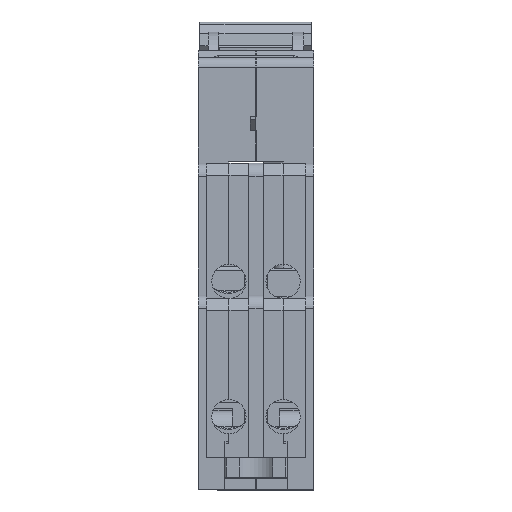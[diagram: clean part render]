
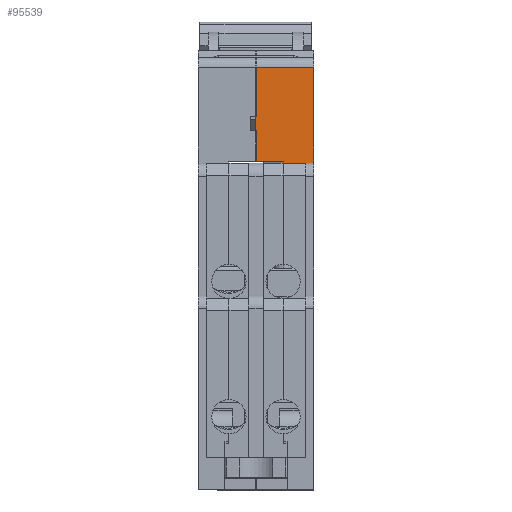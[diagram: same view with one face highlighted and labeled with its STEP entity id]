
A CAD part, front view. The second image highlights one B-rep face of the part: STEP entity #95539.
In plain terms, the highlighted planar face has unit normal (0, -1, 0).
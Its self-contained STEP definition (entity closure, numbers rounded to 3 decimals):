
#5429 = VERTEX_POINT ( 'NONE', #61371 ) ;
#5433 = VERTEX_POINT ( 'NONE', #61509 ) ;
#5483 = VERTEX_POINT ( 'NONE', #61562 ) ;
#5653 = VERTEX_POINT ( 'NONE', #17383 ) ;
#5671 = VERTEX_POINT ( 'NONE', #17381 ) ;
#5672 = VERTEX_POINT ( 'NONE', #17382 ) ;
#8372 = DIRECTION ( 'NONE',  ( -1., 0., 0. ) ) ;
#8395 = CARTESIAN_POINT ( 'NONE',  ( -1.3, -45., 44.3 ) ) ;
#8625 = LINE ( 'NONE', #8395, #93769 ) ;
#8939 = LINE ( 'NONE', #9602, #93584 ) ;
#9118 = LINE ( 'NONE', #9132, #94692 ) ;
#9132 = CARTESIAN_POINT ( 'NONE',  ( -4.65, -45., 44. ) ) ;
#9139 = DIRECTION ( 'NONE',  ( 0., 0., 1. ) ) ;
#9602 = CARTESIAN_POINT ( 'NONE',  ( -8.75, -45., 44. ) ) ;
#9639 = DIRECTION ( 'NONE',  ( 1., 0., 0. ) ) ;
#9642 = CARTESIAN_POINT ( 'NONE',  ( -1.3, -45., 58.5 ) ) ;
#9664 = LINE ( 'NONE', #9642, #93924 ) ;
#9996 = DIRECTION ( 'NONE',  ( 0., 0., 1. ) ) ;
#17381 = CARTESIAN_POINT ( 'NONE',  ( -8.75, -45., 58.5 ) ) ;
#17382 = CARTESIAN_POINT ( 'NONE',  ( -8.75, -45., 44.3 ) ) ;
#17383 = CARTESIAN_POINT ( 'NONE',  ( -4.65, -45., 44.3 ) ) ;
#18682 = EDGE_CURVE ( 'NONE', #5433, #5429, #51427, .T. ) ;
#19352 = EDGE_CURVE ( 'NONE', #5671, #5483, #9664, .T. ) ;
#19548 = EDGE_CURVE ( 'NONE', #5653, #5672, #8625, .T. ) ;
#19854 = EDGE_CURVE ( 'NONE', #5672, #5671, #8939, .T. ) ;
#20075 = EDGE_CURVE ( 'NONE', #5433, #5653, #9118, .T. ) ;
#51427 = LINE ( 'NONE', #51506, #94646 ) ;
#51506 = CARTESIAN_POINT ( 'NONE',  ( -1.3, -45., 44. ) ) ;
#51511 = DIRECTION ( 'NONE',  ( 1., 0., 0. ) ) ;
#57394 = EDGE_LOOP ( 'NONE', ( #69584, #69892, #69492, #69883, #70498, #70406 ) ) ;
#58527 = PLANE ( 'NONE',  #79358 ) ;
#58579 = FACE_OUTER_BOUND ( 'NONE', #57394, .T. ) ;
#58620 = CARTESIAN_POINT ( 'NONE',  ( -1.3, -45., 44. ) ) ;
#58623 = DIRECTION ( 'NONE',  ( 0., 1., 0. ) ) ;
#58626 = DIRECTION ( 'NONE',  ( 0., 0., 1. ) ) ;
#61371 = CARTESIAN_POINT ( 'NONE',  ( 0., -45., 44. ) ) ;
#61509 = CARTESIAN_POINT ( 'NONE',  ( -4.65, -45., 44. ) ) ;
#61562 = CARTESIAN_POINT ( 'NONE',  ( 0., -45., 58.5 ) ) ;
#69492 = ORIENTED_EDGE ( 'NONE', *, *, #19548, .F. ) ;
#69584 = ORIENTED_EDGE ( 'NONE', *, *, #19352, .F. ) ;
#69883 = ORIENTED_EDGE ( 'NONE', *, *, #20075, .F. ) ;
#69892 = ORIENTED_EDGE ( 'NONE', *, *, #19854, .F. ) ;
#70406 = ORIENTED_EDGE ( 'NONE', *, *, #111820, .T. ) ;
#70498 = ORIENTED_EDGE ( 'NONE', *, *, #18682, .T. ) ;
#79358 = AXIS2_PLACEMENT_3D ( 'NONE', #58620, #58623, #58626 ) ;
#93584 = VECTOR ( 'NONE', #9996, 1000. ) ;
#93769 = VECTOR ( 'NONE', #8372, 1000. ) ;
#93924 = VECTOR ( 'NONE', #9639, 1000. ) ;
#94646 = VECTOR ( 'NONE', #51511, 1000. ) ;
#94692 = VECTOR ( 'NONE', #9139, 1000. ) ;
#95539 = ADVANCED_FACE ( 'NONE', ( #58579 ), #58527, .F. ) ;
#107179 = LINE ( 'NONE', #107180, #108503 ) ;
#107180 = CARTESIAN_POINT ( 'NONE',  ( 0., -45., 42.5 ) ) ;
#107181 = DIRECTION ( 'NONE',  ( 0., 0., 1. ) ) ;
#108503 = VECTOR ( 'NONE', #107181, 1000. ) ;
#111820 = EDGE_CURVE ( 'NONE', #5429, #5483, #107179, .T. ) ;
